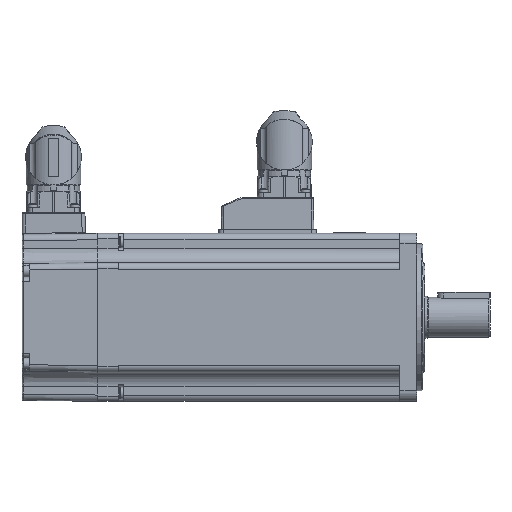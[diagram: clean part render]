
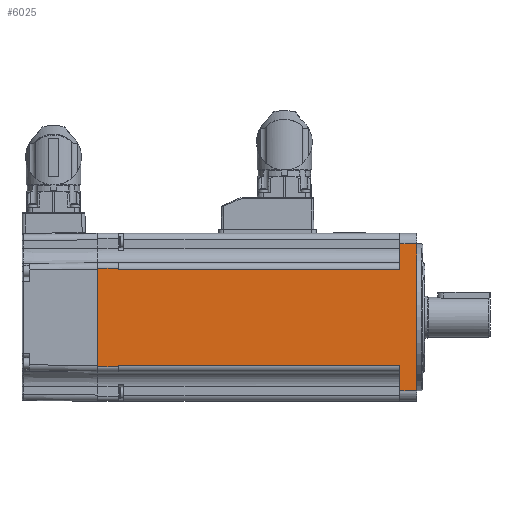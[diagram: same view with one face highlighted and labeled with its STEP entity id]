
A CAD part, left-side view. The second image highlights one B-rep face of the part: STEP entity #6025.
In plain terms, the highlighted planar face has unit normal (-1, 0, 0).
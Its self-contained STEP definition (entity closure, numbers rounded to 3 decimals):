
#6025 = ADVANCED_FACE( '', ( #13477 ), #13478, .T. );
#13477 = FACE_OUTER_BOUND( '', #28240, .T. );
#13478 = PLANE( '', #28241 );
#28240 = EDGE_LOOP( '', ( #48887, #48888, #48889, #48890, #48891, #48892, #48893, #48894, #48895, #48896, #48897, #48898, #48899, #48900 ) );
#28241 = AXIS2_PLACEMENT_3D( '', #48901, #48902, #48903 );
#48887 = ORIENTED_EDGE( '', *, *, #62431, .T. );
#48888 = ORIENTED_EDGE( '', *, *, #63959, .T. );
#48889 = ORIENTED_EDGE( '', *, *, #58819, .T. );
#48890 = ORIENTED_EDGE( '', *, *, #57800, .F. );
#48891 = ORIENTED_EDGE( '', *, *, #61147, .F. );
#48892 = ORIENTED_EDGE( '', *, *, #63960, .F. );
#48893 = ORIENTED_EDGE( '', *, *, #63961, .T. );
#48894 = ORIENTED_EDGE( '', *, *, #63962, .T. );
#48895 = ORIENTED_EDGE( '', *, *, #61182, .T. );
#48896 = ORIENTED_EDGE( '', *, *, #58829, .F. );
#48897 = ORIENTED_EDGE( '', *, *, #63622, .T. );
#48898 = ORIENTED_EDGE( '', *, *, #60092, .F. );
#48899 = ORIENTED_EDGE( '', *, *, #60068, .T. );
#48900 = ORIENTED_EDGE( '', *, *, #63963, .F. );
#48901 = CARTESIAN_POINT( '', ( -40., 78.5, -40. ) );
#48902 = DIRECTION( '', ( -1., 0., 0. ) );
#48903 = DIRECTION( '', ( 0., 0., 1. ) );
#57800 = EDGE_CURVE( '', #67943, #67945, #67946, .T. );
#58819 = EDGE_CURVE( '', #69673, #67945, #69674, .F. );
#58829 = EDGE_CURVE( '', #69688, #69690, #69691, .T. );
#60068 = EDGE_CURVE( '', #71719, #71723, #71725, .F. );
#60092 = EDGE_CURVE( '', #71719, #71762, #71763, .T. );
#61147 = EDGE_CURVE( '', #69939, #67943, #73407, .T. );
#61182 = EDGE_CURVE( '', #73454, #69690, #73456, .T. );
#62431 = EDGE_CURVE( '', #75255, #75252, #75256, .F. );
#63622 = EDGE_CURVE( '', #69688, #71762, #76844, .T. );
#63959 = EDGE_CURVE( '', #75252, #69673, #77283, .T. );
#63960 = EDGE_CURVE( '', #77284, #69939, #77285, .T. );
#63961 = EDGE_CURVE( '', #77284, #77286, #77287, .F. );
#63962 = EDGE_CURVE( '', #77286, #73454, #77288, .T. );
#63963 = EDGE_CURVE( '', #75255, #71723, #77289, .T. );
#67943 = VERTEX_POINT( '', #83948 );
#67945 = VERTEX_POINT( '', #83950 );
#67946 = LINE( '', #83951, #83952 );
#69673 = VERTEX_POINT( '', #87621 );
#69674 = LINE( '', #87622, #87623 );
#69688 = VERTEX_POINT( '', #87641 );
#69690 = VERTEX_POINT( '', #87643 );
#69691 = LINE( '', #87644, #87645 );
#69939 = VERTEX_POINT( '', #88396 );
#71719 = VERTEX_POINT( '', #92289 );
#71723 = VERTEX_POINT( '', #92294 );
#71725 = LINE( '', #92296, #92297 );
#71762 = VERTEX_POINT( '', #92344 );
#71763 = LINE( '', #92345, #92346 );
#73407 = LINE( '', #95889, #95890 );
#73454 = VERTEX_POINT( '', #95986 );
#73456 = LINE( '', #95988, #95989 );
#75252 = VERTEX_POINT( '', #99837 );
#75255 = VERTEX_POINT( '', #99840 );
#75256 = LINE( '', #99841, #99842 );
#76844 = LINE( '', #103448, #103449 );
#77283 = LINE( '', #104451, #104452 );
#77284 = VERTEX_POINT( '', #104453 );
#77285 = LINE( '', #104454, #104455 );
#77286 = VERTEX_POINT( '', #104456 );
#77287 = LINE( '', #104457, #104458 );
#77288 = LINE( '', #104459, #104460 );
#77289 = LINE( '', #104461, #104462 );
#83948 = CARTESIAN_POINT( '', ( -40., 143., 23. ) );
#83950 = CARTESIAN_POINT( '', ( -40., 143., 23.5 ) );
#83951 = CARTESIAN_POINT( '', ( -40., 143., -40. ) );
#83952 = VECTOR( '', #110204, 1000. );
#87621 = CARTESIAN_POINT( '', ( -40., 133., 23.5 ) );
#87622 = CARTESIAN_POINT( '', ( -40., 148.151, 23.5 ) );
#87623 = VECTOR( '', #111527, 1000. );
#87641 = CARTESIAN_POINT( '', ( -40., -1., -35. ) );
#87643 = CARTESIAN_POINT( '', ( -40., -1., -23. ) );
#87644 = CARTESIAN_POINT( '', ( -40., -1., 40. ) );
#87645 = VECTOR( '', #111541, 1000. );
#88396 = CARTESIAN_POINT( '', ( -40., 143., -23. ) );
#92289 = CARTESIAN_POINT( '', ( -40., -9., 35. ) );
#92294 = CARTESIAN_POINT( '', ( -40., -1., 35. ) );
#92296 = CARTESIAN_POINT( '', ( -40., 188.036, 35. ) );
#92297 = VECTOR( '', #113101, 1000. );
#92344 = CARTESIAN_POINT( '', ( -40., -9., -35. ) );
#92345 = CARTESIAN_POINT( '', ( -40., -9., 40. ) );
#92346 = VECTOR( '', #113136, 1000. );
#95889 = CARTESIAN_POINT( '', ( -40., 143., 40. ) );
#95890 = VECTOR( '', #114394, 1000. );
#95986 = CARTESIAN_POINT( '', ( -40., 133., -23. ) );
#95988 = CARTESIAN_POINT( '', ( -40., 78.5, -23. ) );
#95989 = VECTOR( '', #114432, 1000. );
#99837 = CARTESIAN_POINT( '', ( -40., 133., 23. ) );
#99840 = CARTESIAN_POINT( '', ( -40., -1., 23. ) );
#99841 = CARTESIAN_POINT( '', ( -40., 138.5, 23. ) );
#99842 = VECTOR( '', #115872, 1000. );
#103448 = CARTESIAN_POINT( '', ( -40., 188.036, -35. ) );
#103449 = VECTOR( '', #117131, 1000. );
#104451 = CARTESIAN_POINT( '', ( -40., 133., -40. ) );
#104452 = VECTOR( '', #117438, 1000. );
#104453 = CARTESIAN_POINT( '', ( -40., 143., -23.5 ) );
#104454 = CARTESIAN_POINT( '', ( -40., 143., -40. ) );
#104455 = VECTOR( '', #117439, 1000. );
#104456 = CARTESIAN_POINT( '', ( -40., 133., -23.5 ) );
#104457 = CARTESIAN_POINT( '', ( -40., 78.151, -23.5 ) );
#104458 = VECTOR( '', #117440, 1000. );
#104459 = CARTESIAN_POINT( '', ( -40., 133., -40. ) );
#104460 = VECTOR( '', #117441, 1000. );
#104461 = CARTESIAN_POINT( '', ( -40., -1., 40. ) );
#104462 = VECTOR( '', #117442, 1000. );
#110204 = DIRECTION( '', ( 0., 0., 1. ) );
#111527 = DIRECTION( '', ( 0., -1., 0. ) );
#111541 = DIRECTION( '', ( 0., 0., 1. ) );
#113101 = DIRECTION( '', ( 0., -1., 0. ) );
#113136 = DIRECTION( '', ( 0., 0., -1. ) );
#114394 = DIRECTION( '', ( 0., 0., 1. ) );
#114432 = DIRECTION( '', ( 0., -1., 0. ) );
#115872 = DIRECTION( '', ( 0., -1., 0. ) );
#117131 = DIRECTION( '', ( 0., -1., 0. ) );
#117438 = DIRECTION( '', ( 0., 0., 1. ) );
#117439 = DIRECTION( '', ( 0., 0., 1. ) );
#117440 = DIRECTION( '', ( 0., 1., 0. ) );
#117441 = DIRECTION( '', ( 0., 0., 1. ) );
#117442 = DIRECTION( '', ( 0., 0., 1. ) );
